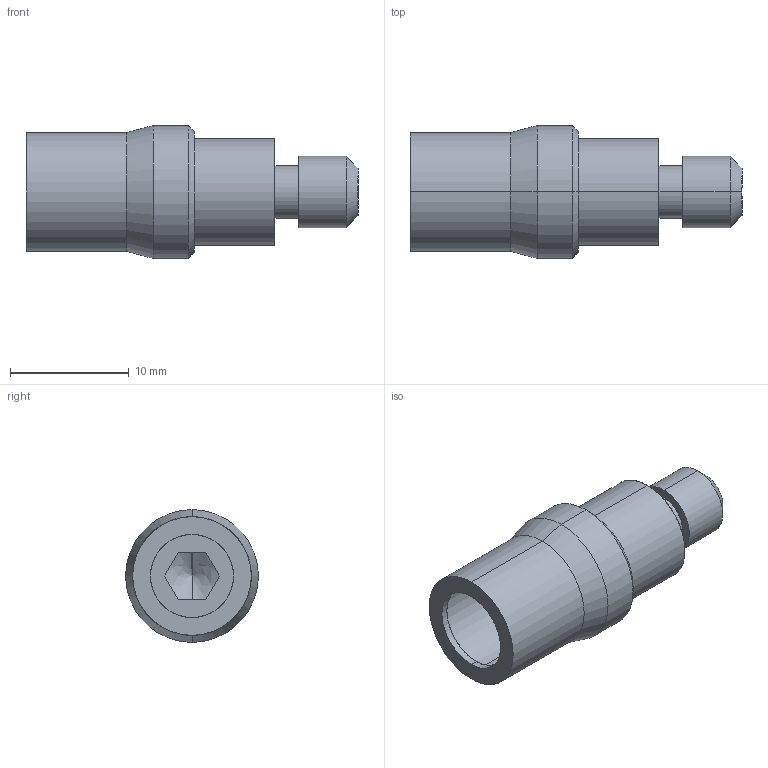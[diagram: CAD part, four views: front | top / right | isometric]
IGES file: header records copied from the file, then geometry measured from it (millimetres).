
Start section: SolidWorks IGES file using analytic representation for surfaces
Global section: file name: Z:\7-3D図面\02.3Dデータ(提出用)\電子カタログ\Ｓ／Ａ\FES\FES-0607.IGS; native system: SolidWorks 2015; preprocessor: SolidWorks 2015; author: flgijutsu02; date: 150615.150048; units: millimetre
Bounding box: 28 x 11.2 x 11.2 mm (x, y, z)
Surface area: 1666.4 mm2 (no closed solid volume)
Topology: 0 solids, 0 shells, 55 faces, 594 edges, 592 vertices
Faces by surface type: revolution 34, bspline 21
